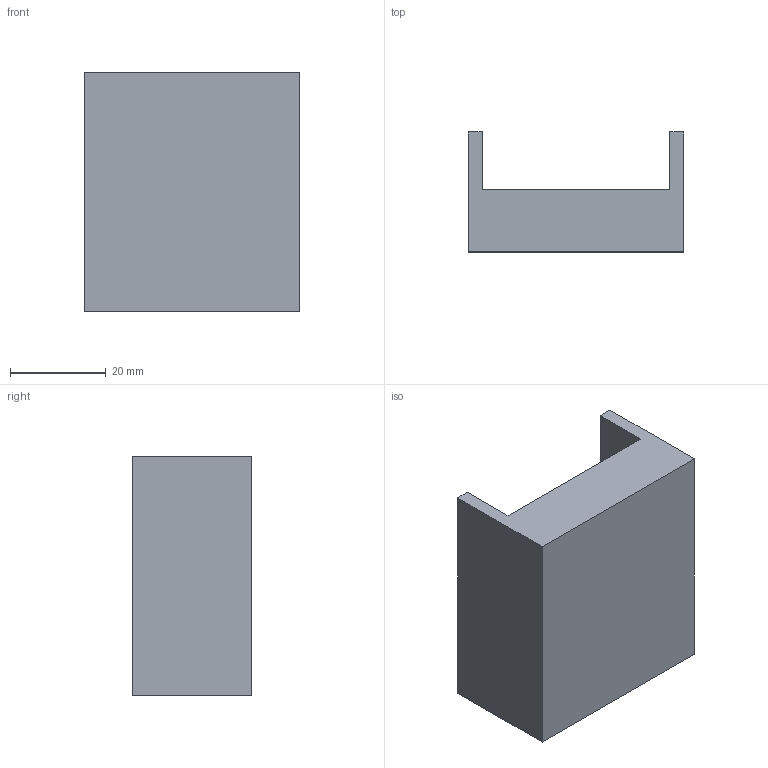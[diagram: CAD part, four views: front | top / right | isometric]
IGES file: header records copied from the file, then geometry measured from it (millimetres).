
Start section: SolidWorks IGES file using analytic representation for surfaces
Global section: file name: C:\Documents and Settings\URETIM3\Desktop\yeni katalog tolgay düzenli\E kataloðu\KASA TAÞIMA BANT KIZAKLARI\220 KSK 856.IGS; native system: SolidWorks 2006 by SolidWorks Corporation; preprocessor: SolidWorks 2006 by SolidWorks Corporation; author: URETIM3; date: 060912.174054; units: millimetre
Bounding box: 45 x 25 x 50 mm (x, y, z)
Surface area: 9509.2 mm2 (no closed solid volume)
Topology: 0 solids, 0 shells, 10 faces, 48 edges, 48 vertices
Faces by surface type: bspline 10
